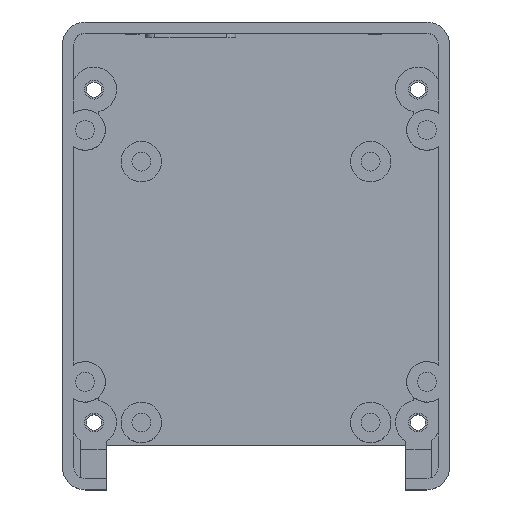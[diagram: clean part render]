
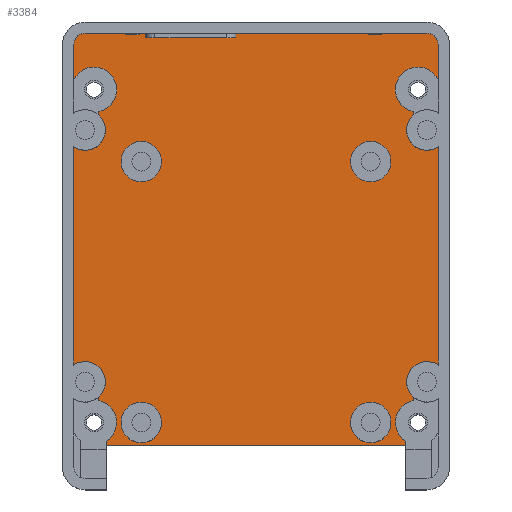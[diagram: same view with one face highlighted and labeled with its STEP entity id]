
A CAD part, top view. The second image highlights one B-rep face of the part: STEP entity #3384.
In plain terms, the highlighted planar face has unit normal (0, 0, 1).
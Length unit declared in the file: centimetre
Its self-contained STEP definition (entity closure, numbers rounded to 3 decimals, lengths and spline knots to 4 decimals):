
#21=FACE_BOUND('',#476,.T.);
#22=FACE_BOUND('',#477,.T.);
#23=FACE_BOUND('',#478,.T.);
#24=FACE_BOUND('',#479,.T.);
#128=CIRCLE('',#3604,0.5);
#129=CIRCLE('',#3605,0.25);
#130=CIRCLE('',#3606,0.25);
#131=CIRCLE('',#3607,0.5);
#132=CIRCLE('',#3608,0.45);
#133=CIRCLE('',#3609,0.45);
#134=CIRCLE('',#3610,0.5);
#135=CIRCLE('',#3611,0.5);
#136=CIRCLE('',#3612,0.45);
#137=CIRCLE('',#3613,0.45);
#138=CIRCLE('',#3614,0.45);
#139=CIRCLE('',#3615,0.45);
#140=CIRCLE('',#3616,0.45);
#141=CIRCLE('',#3617,0.45);
#286=FACE_OUTER_BOUND('',#475,.T.);
#475=EDGE_LOOP('',(#2441,#2442,#2443,#2444,#2445,#2446,#2447,#2448,#2449,
#2450,#2451,#2452,#2453,#2454,#2455,#2456,#2457,#2458,#2459,#2460,#2461,
#2462,#2463,#2464,#2465,#2466,#2467,#2468,#2469,#2470));
#476=EDGE_LOOP('',(#2471));
#477=EDGE_LOOP('',(#2472));
#478=EDGE_LOOP('',(#2473));
#479=EDGE_LOOP('',(#2474));
#669=LINE('',#4920,#1037);
#726=LINE('',#5037,#1094);
#758=LINE('',#5145,#1126);
#759=LINE('',#5150,#1127);
#760=LINE('',#5154,#1128);
#761=LINE('',#5156,#1129);
#762=LINE('',#5158,#1130);
#763=LINE('',#5160,#1131);
#764=LINE('',#5162,#1132);
#765=LINE('',#5164,#1133);
#766=LINE('',#5166,#1134);
#767=LINE('',#5168,#1135);
#768=LINE('',#5170,#1136);
#769=LINE('',#5174,#1137);
#770=LINE('',#5178,#1138);
#771=LINE('',#5182,#1139);
#772=LINE('',#5186,#1140);
#773=LINE('',#5188,#1141);
#774=LINE('',#5192,#1142);
#775=LINE('',#5196,#1143);
#1037=VECTOR('',#3902,1.);
#1094=VECTOR('',#3995,1.);
#1126=VECTOR('',#4107,1.);
#1127=VECTOR('',#4112,1.);
#1128=VECTOR('',#4115,1.);
#1129=VECTOR('',#4116,1.);
#1130=VECTOR('',#4117,1.);
#1131=VECTOR('',#4118,1.);
#1132=VECTOR('',#4119,1.);
#1133=VECTOR('',#4120,1.);
#1134=VECTOR('',#4121,1.);
#1135=VECTOR('',#4122,1.);
#1136=VECTOR('',#4123,1.);
#1137=VECTOR('',#4126,1.);
#1138=VECTOR('',#4129,1.);
#1139=VECTOR('',#4132,1.);
#1140=VECTOR('',#4135,1.);
#1141=VECTOR('',#4138,1.);
#1142=VECTOR('',#4141,1.);
#1143=VECTOR('',#4144,1.);
#1396=VERTEX_POINT('',#4917);
#1397=VERTEX_POINT('',#4919);
#1438=VERTEX_POINT('',#5034);
#1439=VERTEX_POINT('',#5036);
#1473=VERTEX_POINT('',#5139);
#1475=VERTEX_POINT('',#5143);
#1476=VERTEX_POINT('',#5147);
#1477=VERTEX_POINT('',#5149);
#1478=VERTEX_POINT('',#5151);
#1479=VERTEX_POINT('',#5153);
#1480=VERTEX_POINT('',#5155);
#1481=VERTEX_POINT('',#5157);
#1482=VERTEX_POINT('',#5159);
#1483=VERTEX_POINT('',#5161);
#1484=VERTEX_POINT('',#5163);
#1485=VERTEX_POINT('',#5165);
#1486=VERTEX_POINT('',#5167);
#1487=VERTEX_POINT('',#5169);
#1488=VERTEX_POINT('',#5171);
#1489=VERTEX_POINT('',#5173);
#1490=VERTEX_POINT('',#5175);
#1491=VERTEX_POINT('',#5177);
#1492=VERTEX_POINT('',#5179);
#1493=VERTEX_POINT('',#5181);
#1494=VERTEX_POINT('',#5183);
#1495=VERTEX_POINT('',#5185);
#1496=VERTEX_POINT('',#5189);
#1497=VERTEX_POINT('',#5191);
#1498=VERTEX_POINT('',#5193);
#1499=VERTEX_POINT('',#5195);
#1500=VERTEX_POINT('',#5198);
#1501=VERTEX_POINT('',#5200);
#1502=VERTEX_POINT('',#5202);
#1503=VERTEX_POINT('',#5204);
#1739=EDGE_CURVE('',#1397,#1396,#669,.T.);
#1796=EDGE_CURVE('',#1439,#1438,#726,.T.);
#1848=EDGE_CURVE('',#1473,#1475,#758,.T.);
#1849=EDGE_CURVE('',#1475,#1476,#128,.T.);
#1850=EDGE_CURVE('',#1477,#1476,#759,.T.);
#1851=EDGE_CURVE('',#1478,#1477,#129,.T.);
#1852=EDGE_CURVE('',#1479,#1478,#760,.T.);
#1853=EDGE_CURVE('',#1480,#1479,#761,.T.);
#1854=EDGE_CURVE('',#1481,#1480,#762,.T.);
#1855=EDGE_CURVE('',#1482,#1481,#763,.T.);
#1856=EDGE_CURVE('',#1483,#1482,#764,.T.);
#1857=EDGE_CURVE('',#1484,#1483,#765,.T.);
#1858=EDGE_CURVE('',#1485,#1484,#766,.T.);
#1859=EDGE_CURVE('',#1486,#1485,#767,.T.);
#1860=EDGE_CURVE('',#1487,#1486,#768,.T.);
#1861=EDGE_CURVE('',#1488,#1487,#130,.T.);
#1862=EDGE_CURVE('',#1489,#1488,#769,.T.);
#1863=EDGE_CURVE('',#1489,#1490,#131,.T.);
#1864=EDGE_CURVE('',#1490,#1491,#770,.T.);
#1865=EDGE_CURVE('',#1492,#1491,#132,.T.);
#1866=EDGE_CURVE('',#1493,#1492,#771,.T.);
#1867=EDGE_CURVE('',#1494,#1493,#133,.T.);
#1868=EDGE_CURVE('',#1494,#1495,#772,.T.);
#1869=EDGE_CURVE('',#1495,#1439,#134,.T.);
#1870=EDGE_CURVE('',#1438,#1397,#773,.T.);
#1871=EDGE_CURVE('',#1396,#1496,#135,.T.);
#1872=EDGE_CURVE('',#1496,#1497,#774,.T.);
#1873=EDGE_CURVE('',#1498,#1497,#136,.T.);
#1874=EDGE_CURVE('',#1499,#1498,#775,.T.);
#1875=EDGE_CURVE('',#1473,#1499,#137,.T.);
#1876=EDGE_CURVE('',#1500,#1500,#138,.T.);
#1877=EDGE_CURVE('',#1501,#1501,#139,.T.);
#1878=EDGE_CURVE('',#1502,#1502,#140,.T.);
#1879=EDGE_CURVE('',#1503,#1503,#141,.T.);
#2441=ORIENTED_EDGE('',*,*,#1848,.T.);
#2442=ORIENTED_EDGE('',*,*,#1849,.T.);
#2443=ORIENTED_EDGE('',*,*,#1850,.F.);
#2444=ORIENTED_EDGE('',*,*,#1851,.F.);
#2445=ORIENTED_EDGE('',*,*,#1852,.F.);
#2446=ORIENTED_EDGE('',*,*,#1853,.F.);
#2447=ORIENTED_EDGE('',*,*,#1854,.F.);
#2448=ORIENTED_EDGE('',*,*,#1855,.F.);
#2449=ORIENTED_EDGE('',*,*,#1856,.F.);
#2450=ORIENTED_EDGE('',*,*,#1857,.F.);
#2451=ORIENTED_EDGE('',*,*,#1858,.F.);
#2452=ORIENTED_EDGE('',*,*,#1859,.F.);
#2453=ORIENTED_EDGE('',*,*,#1860,.F.);
#2454=ORIENTED_EDGE('',*,*,#1861,.F.);
#2455=ORIENTED_EDGE('',*,*,#1862,.F.);
#2456=ORIENTED_EDGE('',*,*,#1863,.T.);
#2457=ORIENTED_EDGE('',*,*,#1864,.T.);
#2458=ORIENTED_EDGE('',*,*,#1865,.F.);
#2459=ORIENTED_EDGE('',*,*,#1866,.F.);
#2460=ORIENTED_EDGE('',*,*,#1867,.F.);
#2461=ORIENTED_EDGE('',*,*,#1868,.T.);
#2462=ORIENTED_EDGE('',*,*,#1869,.T.);
#2463=ORIENTED_EDGE('',*,*,#1796,.T.);
#2464=ORIENTED_EDGE('',*,*,#1870,.T.);
#2465=ORIENTED_EDGE('',*,*,#1739,.T.);
#2466=ORIENTED_EDGE('',*,*,#1871,.T.);
#2467=ORIENTED_EDGE('',*,*,#1872,.T.);
#2468=ORIENTED_EDGE('',*,*,#1873,.F.);
#2469=ORIENTED_EDGE('',*,*,#1874,.F.);
#2470=ORIENTED_EDGE('',*,*,#1875,.F.);
#2471=ORIENTED_EDGE('',*,*,#1876,.F.);
#2472=ORIENTED_EDGE('',*,*,#1877,.F.);
#2473=ORIENTED_EDGE('',*,*,#1878,.F.);
#2474=ORIENTED_EDGE('',*,*,#1879,.F.);
#3252=PLANE('',#3603);
#3384=ADVANCED_FACE('',(#286,#21,#22,#23,#24),#3252,.F.);
#3603=AXIS2_PLACEMENT_3D('',#5146,#4108,#4109);
#3604=AXIS2_PLACEMENT_3D('',#5148,#4110,#4111);
#3605=AXIS2_PLACEMENT_3D('',#5152,#4113,#4114);
#3606=AXIS2_PLACEMENT_3D('',#5172,#4124,#4125);
#3607=AXIS2_PLACEMENT_3D('',#5176,#4127,#4128);
#3608=AXIS2_PLACEMENT_3D('',#5180,#4130,#4131);
#3609=AXIS2_PLACEMENT_3D('',#5184,#4133,#4134);
#3610=AXIS2_PLACEMENT_3D('',#5187,#4136,#4137);
#3611=AXIS2_PLACEMENT_3D('',#5190,#4139,#4140);
#3612=AXIS2_PLACEMENT_3D('',#5194,#4142,#4143);
#3613=AXIS2_PLACEMENT_3D('',#5197,#4145,#4146);
#3614=AXIS2_PLACEMENT_3D('',#5199,#4147,#4148);
#3615=AXIS2_PLACEMENT_3D('',#5201,#4149,#4150);
#3616=AXIS2_PLACEMENT_3D('',#5203,#4151,#4152);
#3617=AXIS2_PLACEMENT_3D('',#5205,#4153,#4154);
#3902=DIRECTION('',(0.,1.,0.));
#3995=DIRECTION('',(0.,-1.,0.));
#4107=DIRECTION('',(0.,1.,0.));
#4108=DIRECTION('center_axis',(0.,0.,-1.));
#4109=DIRECTION('ref_axis',(-1.,0.,0.));
#4110=DIRECTION('center_axis',(0.,0.,-1.));
#4111=DIRECTION('ref_axis',(1.,0.,0.));
#4112=DIRECTION('',(0.,-1.,0.));
#4113=DIRECTION('center_axis',(0.,0.,-1.));
#4114=DIRECTION('ref_axis',(0.,1.,0.));
#4115=DIRECTION('',(1.,0.,0.));
#4116=DIRECTION('',(0.,1.,0.));
#4117=DIRECTION('',(1.,0.,0.));
#4118=DIRECTION('',(0.,-1.,0.));
#4119=DIRECTION('',(1.,0.,0.));
#4120=DIRECTION('',(0.,1.,0.));
#4121=DIRECTION('',(1.,0.,0.));
#4122=DIRECTION('',(0.,-1.,0.));
#4123=DIRECTION('',(1.,0.,0.));
#4124=DIRECTION('center_axis',(0.,0.,-1.));
#4125=DIRECTION('ref_axis',(-1.,0.,0.));
#4126=DIRECTION('',(0.,1.,0.));
#4127=DIRECTION('center_axis',(0.,0.,-1.));
#4128=DIRECTION('ref_axis',(1.,0.,0.));
#4129=DIRECTION('',(0.,-1.,0.));
#4130=DIRECTION('center_axis',(0.,0.,1.));
#4131=DIRECTION('ref_axis',(-1.,0.,0.));
#4132=DIRECTION('',(0.,1.,0.));
#4133=DIRECTION('center_axis',(0.,0.,1.));
#4134=DIRECTION('ref_axis',(-1.,0.,0.));
#4135=DIRECTION('',(0.,-1.,0.));
#4136=DIRECTION('center_axis',(0.,0.,-1.));
#4137=DIRECTION('ref_axis',(1.,0.,0.));
#4138=DIRECTION('',(1.,0.,0.));
#4139=DIRECTION('center_axis',(0.,0.,-1.));
#4140=DIRECTION('ref_axis',(1.,0.,0.));
#4141=DIRECTION('',(0.,1.,0.));
#4142=DIRECTION('center_axis',(0.,0.,1.));
#4143=DIRECTION('ref_axis',(-1.,0.,0.));
#4144=DIRECTION('',(0.,-1.,0.));
#4145=DIRECTION('center_axis',(0.,0.,1.));
#4146=DIRECTION('ref_axis',(-1.,0.,0.));
#4147=DIRECTION('center_axis',(0.,0.,1.));
#4148=DIRECTION('ref_axis',(-1.,0.,0.));
#4149=DIRECTION('center_axis',(0.,0.,1.));
#4150=DIRECTION('ref_axis',(-1.,0.,0.));
#4151=DIRECTION('center_axis',(0.,0.,1.));
#4152=DIRECTION('ref_axis',(-1.,0.,0.));
#4153=DIRECTION('center_axis',(0.,0.,1.));
#4154=DIRECTION('ref_axis',(-1.,0.,0.));
#4917=CARTESIAN_POINT('',(3.33,-4.1208,0.25));
#4919=CARTESIAN_POINT('',(3.33,-4.2,0.25));
#4920=CARTESIAN_POINT('',(3.33,-2.025,0.25));
#5034=CARTESIAN_POINT('',(-3.33,-4.2,0.25));
#5036=CARTESIAN_POINT('',(-3.33,-4.1208,0.25));
#5037=CARTESIAN_POINT('',(-3.33,-2.6,0.25));
#5139=CARTESIAN_POINT('',(3.5,3.1354,0.25));
#5143=CARTESIAN_POINT('',(3.5,3.2101,0.25));
#5145=CARTESIAN_POINT('',(3.5,1.85,0.25));
#5146=CARTESIAN_POINT('Origin',(0.,0.,0.25));
#5147=CARTESIAN_POINT('',(4.05,3.9179,0.25));
#5148=CARTESIAN_POINT('Origin',(3.6,3.7,0.25));
#5149=CARTESIAN_POINT('',(4.05,4.7,0.25));
#5150=CARTESIAN_POINT('',(4.05,4.7,0.25));
#5151=CARTESIAN_POINT('',(3.8,4.95,0.25));
#5152=CARTESIAN_POINT('Origin',(3.8,4.7,0.25));
#5153=CARTESIAN_POINT('',(2.8,4.95,0.25));
#5154=CARTESIAN_POINT('',(-3.8,4.95,0.25));
#5155=CARTESIAN_POINT('',(2.8,4.92,0.25));
#5156=CARTESIAN_POINT('',(2.8,2.525,0.25));
#5157=CARTESIAN_POINT('',(2.5,4.92,0.25));
#5158=CARTESIAN_POINT('',(1.4,4.92,0.25));
#5159=CARTESIAN_POINT('',(2.5,4.95,0.25));
#5160=CARTESIAN_POINT('',(2.5,2.46,0.25));
#5161=CARTESIAN_POINT('',(-2.6,4.95,0.25));
#5162=CARTESIAN_POINT('',(-3.8,4.95,0.25));
#5163=CARTESIAN_POINT('',(-2.6,4.92,0.25));
#5164=CARTESIAN_POINT('',(-2.6,2.525,0.25));
#5165=CARTESIAN_POINT('',(-2.9,4.92,0.25));
#5166=CARTESIAN_POINT('',(-1.3,4.92,0.25));
#5167=CARTESIAN_POINT('',(-2.9,4.95,0.25));
#5168=CARTESIAN_POINT('',(-2.9,2.46,0.25));
#5169=CARTESIAN_POINT('',(-3.8,4.95,0.25));
#5170=CARTESIAN_POINT('',(-3.8,4.95,0.25));
#5171=CARTESIAN_POINT('',(-4.05,4.7,0.25));
#5172=CARTESIAN_POINT('Origin',(-3.8,4.7,0.25));
#5173=CARTESIAN_POINT('',(-4.05,3.9179,0.25));
#5174=CARTESIAN_POINT('',(-4.05,-4.7,0.25));
#5175=CARTESIAN_POINT('',(-3.5,3.2101,0.25));
#5176=CARTESIAN_POINT('Origin',(-3.6,3.7,0.25));
#5177=CARTESIAN_POINT('',(-3.5,3.1354,0.25));
#5178=CARTESIAN_POINT('',(-3.5,1.4,0.25));
#5179=CARTESIAN_POINT('',(-4.05,2.4258,0.25));
#5180=CARTESIAN_POINT('Origin',(-3.8,2.8,0.25));
#5181=CARTESIAN_POINT('',(-4.05,-2.4258,0.25));
#5182=CARTESIAN_POINT('',(-4.05,-4.7,0.25));
#5183=CARTESIAN_POINT('',(-3.5,-3.1354,0.25));
#5184=CARTESIAN_POINT('Origin',(-3.8,-2.8,0.25));
#5185=CARTESIAN_POINT('',(-3.5,-3.2101,0.25));
#5186=CARTESIAN_POINT('',(-3.5,-1.85,0.25));
#5187=CARTESIAN_POINT('Origin',(-3.6,-3.7,0.25));
#5188=CARTESIAN_POINT('',(1.665,-4.2,0.25));
#5189=CARTESIAN_POINT('',(3.5,-3.2101,0.25));
#5190=CARTESIAN_POINT('Origin',(3.6,-3.7,0.25));
#5191=CARTESIAN_POINT('',(3.5,-3.1354,0.25));
#5192=CARTESIAN_POINT('',(3.5,-1.4,0.25));
#5193=CARTESIAN_POINT('',(4.05,-2.4258,0.25));
#5194=CARTESIAN_POINT('Origin',(3.8,-2.8,0.25));
#5195=CARTESIAN_POINT('',(4.05,2.4258,0.25));
#5196=CARTESIAN_POINT('',(4.05,4.7,0.25));
#5197=CARTESIAN_POINT('Origin',(3.8,2.8,0.25));
#5198=CARTESIAN_POINT('',(-2.1,-3.7,0.25));
#5199=CARTESIAN_POINT('Origin',(-2.55,-3.7,0.25));
#5200=CARTESIAN_POINT('',(3.,2.1,0.25));
#5201=CARTESIAN_POINT('Origin',(2.55,2.1,0.25));
#5202=CARTESIAN_POINT('',(3.,-3.7,0.25));
#5203=CARTESIAN_POINT('Origin',(2.55,-3.7,0.25));
#5204=CARTESIAN_POINT('',(-2.1,2.1,0.25));
#5205=CARTESIAN_POINT('Origin',(-2.55,2.1,0.25));
